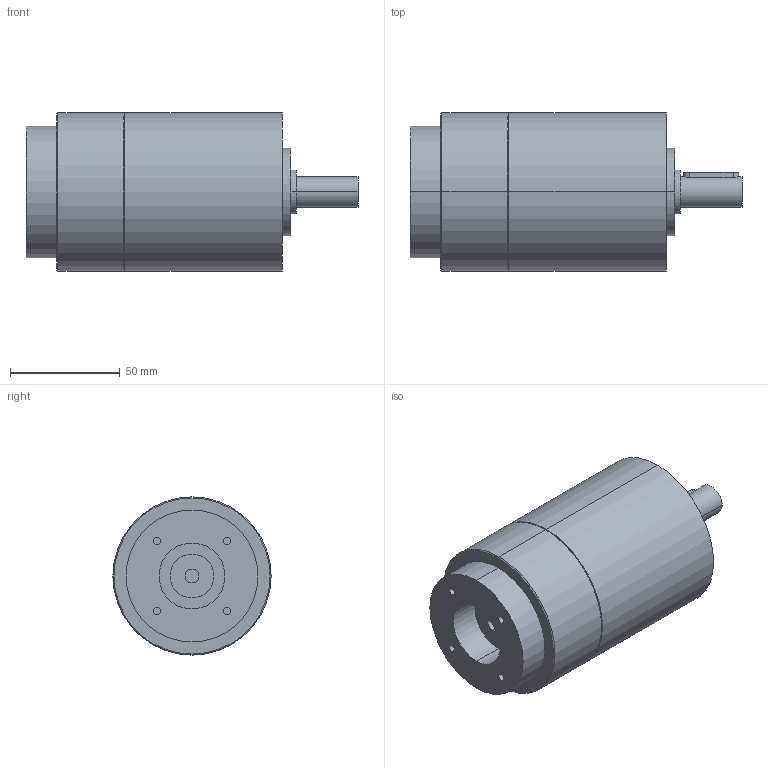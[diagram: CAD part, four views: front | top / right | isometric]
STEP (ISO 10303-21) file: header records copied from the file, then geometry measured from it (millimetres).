
FILE_DESCRIPTION(('CoCreate Modeling STEP Export'),'2;1');
FILE_NAME('GPT75_ig-9-12-16-20-25-28-35-40-50-70-100_14_B14T_6.35_P16.stp','2014-08-27T13:17:53',(''),(''),'CoCreate Modeling STEP processor for AP214 (Solid Model)','CoCreate Modeling 16.00C 25-Feb-2009 (C) Parametric Technology GmbH','');
FILE_SCHEMA(('AUTOMOTIVE_DESIGN { 1 0 10303 214 1 1 1 1 }'));
Length unit declared in the file: millimetre
Products named in the file (2): GPT75_ig-9-12-16-20-25-28-35-40-50-70-100_14_B14T_6.35_P16
Assembly tree (1 placements, depth 2):
  GPT75_ig-9-12-16-20-25-28-35-40-50-70-100_14_B14T_6.35_P16
    GPT75_ig-9-12-16-20-25-28-35-40-50-70-100_14_B14T_6.35_P16
Bounding box: 151 x 72 x 72 mm (x, y, z)
Volume: 455866.2 mm3; surface area: 39690.8 mm2
Topology: 1 solids, 1 shells, 64 faces, 142 edges, 97 vertices
Faces by surface type: cylinder 38, plane 22, cone 4
Entity records: 1878 total; most frequent: CARTESIAN_POINT 614, ORIENTED_EDGE 284, DIRECTION 210, EDGE_CURVE 142, VERTEX_POINT 97, AXIS2_PLACEMENT_3D 81, EDGE_LOOP 81, FACE_OUTER_BOUND 64
